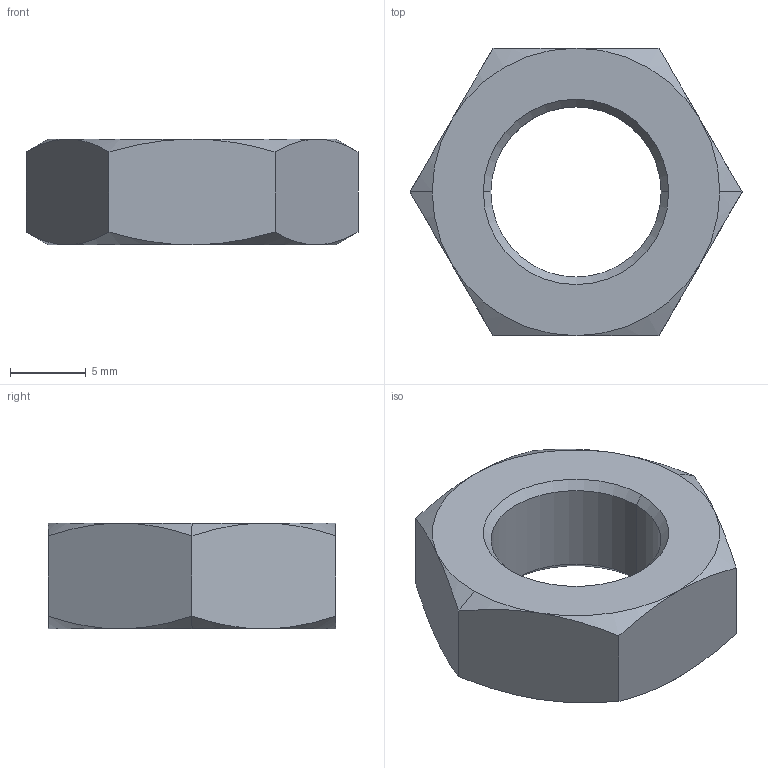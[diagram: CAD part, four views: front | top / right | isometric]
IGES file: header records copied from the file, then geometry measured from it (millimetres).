
Global section: file name: No Iges File Name specified; native system: AutoDesk Inventor R6.0; preprocessor: AutoDesk Inventor Iges Exporter R6.0; author: No Author specified; organization: No Organization specified; date: 20030408.082807; units: millimetre
Bounding box: 21.94 x 19 x 7 mm (x, y, z)
Volume: 1468 mm3; surface area: 1084.6 mm2
Topology: 1 solids, 1 shells, 30 faces, 64 edges, 36 vertices
Faces by surface type: cone 16, plane 8, bspline 4, revolution 2
